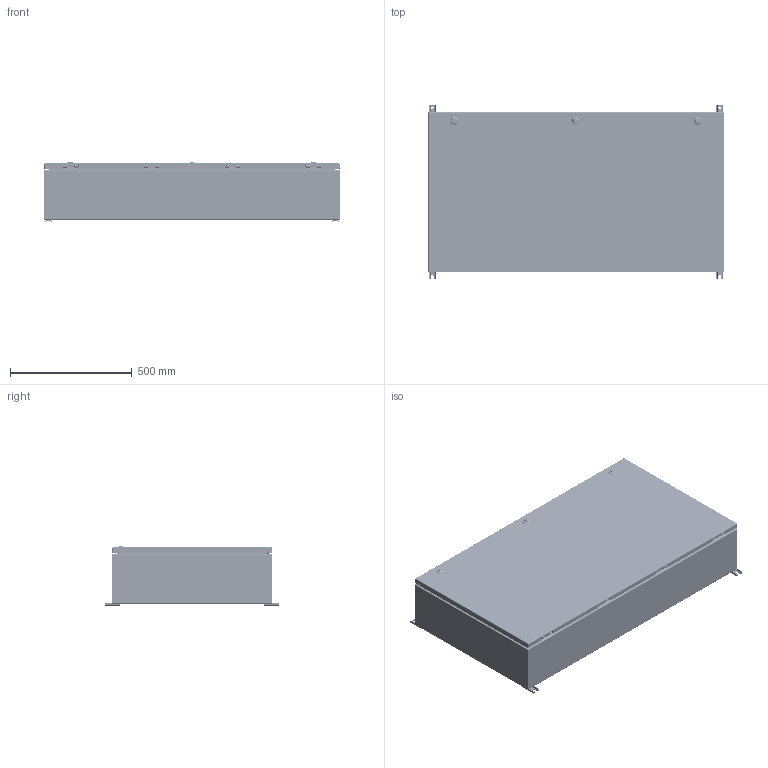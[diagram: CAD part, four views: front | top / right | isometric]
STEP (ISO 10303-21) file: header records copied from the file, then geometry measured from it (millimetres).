
FILE_DESCRIPTION(/* description */ ('1412BTCU 400A - 5 Wires x 48" Assembly'),/* implementation_level */ '2;1');
FILE_NAME(/* name */ 'C:\Vault_Workspace\Inventor_Dwg\BoxCad\Result\1412BTCU04405\e-mail\3D\1412BTCU04405.stp',/* time_stamp */ '2022-09-06T18:43:03-04:00',/* author */ ('BoxCad'),/* organization */ (''),/* preprocessor_version */ 'ST-DEVELOPER v18.1',/* originating_system */ 'Autodesk Inventor 2020',/* authorisation */ '');
FILE_SCHEMA (('AUTOMOTIVE_DESIGN { 1 0 10303 214 3 1 1 }'));
Products named in the file (53): 1412BTCU04405; 1412BTCU04405B; 1412BTCU04405B-P; STK-Q-16005; 1412BTCU04405C; 1412BTCU04405C-P; 1412BTCU04405G; STK-Q-16080; STK-K-09800; STK-Q-33014; STK-Q-90398; STK-Q-40095; STK-Q-63410; STK-S-00100; STK-P-02400S; STK-A-880SCQ4-SL-1; STK-A-880SCQ4-SL-2; STK-A-880SCQ4-SL-3; STK-Q-78110; STK-Q-78120; STK-Q-78145; STK-Q-03200; STK-Q-78125; STK-Q-78141; STK-Q-90390; STK-Q-78160; 1412BTCU04405IP1; 1412BTCU04405IP1-P; STK-P-02401S; STK-Q-07610; STK-A-67400; STK-Q-67400; STK-G-22300; STK-Q-67420; STK-Q-40800; STK-Q-67430; STK-Q-07310; 1412BTCU04405BAR1-P; 1412BTCU04405BAR2-P; 1412BTCU04405BAR3-P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
Assembly tree (119 placements, depth 4):
  1412BTCU04405
    1412BTCU04405B
      1412BTCU04405B-P
      STK-Q-16080
      STK-Q-16005  x6
      STK-S-00100
      STK-P-02400S
    1412BTCU04405C
      1412BTCU04405C-P
      1412BTCU04405G
      STK-Q-16080
      STK-K-09800  x4
        STK-Q-33014
        STK-Q-90398
        STK-Q-40095
        STK-Q-63410
      STK-S-00100
      STK-P-02400S
      STK-A-880SCQ4-SL-1
        STK-Q-78110
        STK-Q-78120
        STK-Q-78145
        STK-Q-03200
        STK-Q-78125
        STK-Q-78141
        STK-Q-90390
        STK-Q-78160
      STK-A-880SCQ4-SL-2
        STK-Q-78110
        STK-Q-78120
        STK-Q-78145
        STK-Q-03200
        STK-Q-78125
        STK-Q-78141
        STK-Q-90390
        STK-Q-78160
      STK-A-880SCQ4-SL-3
        STK-Q-78110
        STK-Q-78120
        STK-Q-78145
        STK-Q-03200
        STK-Q-78125
        STK-Q-78141
        STK-Q-90390
        STK-Q-78160
    1412BTCU04405IP1
      1412BTCU04405IP1-P
      STK-P-02401S
    STK-Q-07610  x4
    STK-Q-07310  x14
    STK-A-67400  x10
      STK-Q-67400
      STK-G-22300
      STK-Q-67420
      STK-Q-40800
      STK-Q-67430
    1412BTCU04405BAR1-P
    1412BTCU04405BAR2-P
    1412BTCU04405BAR3-P
    1412BTCU04405BAR4-P
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Bounding box: 1219.2 x 717.55 x 243.4 mm (x, y, z)
Volume: 7497953.1 mm3; surface area: 7339384 mm2
Topology: 179 solids, 179 shells, 25207 faces, 65615 edges, 40701 vertices
Faces by surface type: plane 9030, bspline 6661, cylinder 6534, torus 2043, sphere 584, cone 355
Full cylindrical faces by diameter (mm): 0.75 x8, 0.762 x8, 1 x16, 1.1 x16, 3.2 x8, 4.5 x40, 4.521 x16, 4.85 x32, 4.95 x8, 5.1 x37, 5.6 x4, 5.9 x78, 6.65 x16, 6.85 x56, 7.3 x4, 7.366 x4, 7.8 x410, 7.9 x6, 8 x28, 8.25 x20, 8.382 x4, 8.6 x12, 9.6 x3, 9.7 x48, 9.906 x4, 10 x3, 10.312 x2, 11.5 x20, 12 x14, 12.8 x3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
Entity records: 196775 total; most frequent: CARTESIAN_POINT 78893, ORIENTED_EDGE 26082, DIRECTION 21037, EDGE_CURVE 13041, VERTEX_POINT 8252, AXIS2_PLACEMENT_3D 7391, LINE 6255, VECTOR 6255
